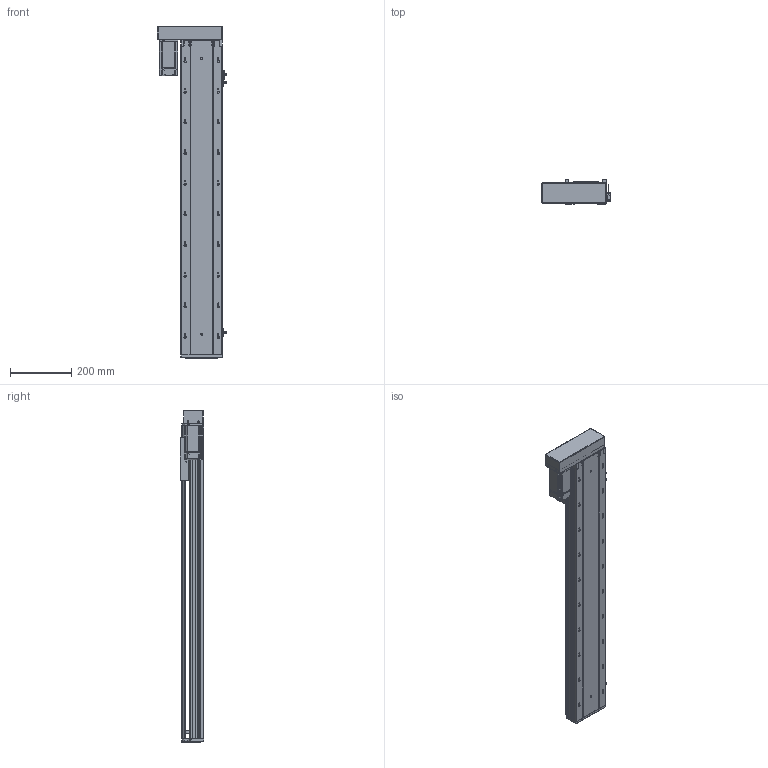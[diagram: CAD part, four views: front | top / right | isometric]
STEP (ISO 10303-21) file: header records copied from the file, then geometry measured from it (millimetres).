
FILE_DESCRIPTION (( 'STEP AP203' ), '1' );
FILE_NAME ('RY140-L1620-300-LK.SLDASM_800.step', '2021-02-22T02:46:49', ( '盈信电脑' ), ( '东莞市道滘镇水果街19号' ), 'SwSTEP 2.0', 'SolidWorks 2012', '' );
FILE_SCHEMA (( 'CONFIG_CONTROL_DESIGN' ));
Length unit declared in the file: millimetre
Products named in the file (14): RY140酘衵殏萇儂欶; RY140-L1620-300-LK.SLDASM_800; 侂狟400W侜督萇儂; 15; RY140蛌殏萇儂假蚾啣; RY120外置感应片(140共用）; RY140转折电机端支撑座; 覜茼ん672; 滅袉蝶18-24; 滅袉蝶18-10; RY140綴裔啣; RY140-300蛌殏倰第奻裔啣-LK_800; RY140臏賑輸; RY140-300蛌殏倰第菁釱-LK_800
Assembly tree (16 placements, depth 3):
  RY140-L1620-300-LK.SLDASM_800
    RY140-300蛌殏倰第菁釱-LK_800
    RY140臏賑輸
    RY140-300蛌殏倰第奻裔啣-LK_800
    RY140綴裔啣
    滅袉蝶18-24  x2
    滅袉蝶18-10
    覜茼ん672  x3
    RY120外置感应片(140共用）
    RY140转折电机端支撑座
    RY140蛌殏萇儂假蚾啣
    侂狟400W侜督萇儂
      15
    RY140酘衵殏萇儂欶
Bounding box: 225.2 x 78 x 1083 mm (x, y, z)
Volume: 3518654.4 mm3; surface area: 1298405.6 mm2
Topology: 15 solids, 15 shells, 2367 faces, 6588 edges, 4222 vertices
Faces by surface type: plane 1174, cylinder 902, cone 198, bspline 93
Entity records: 75611 total; most frequent: CARTESIAN_POINT 18477, ORIENTED_EDGE 11872, DIRECTION 11169, EDGE_CURVE 5936, VERTEX_POINT 3890, VECTOR 3737, LINE 3737, AXIS2_PLACEMENT_3D 3716
